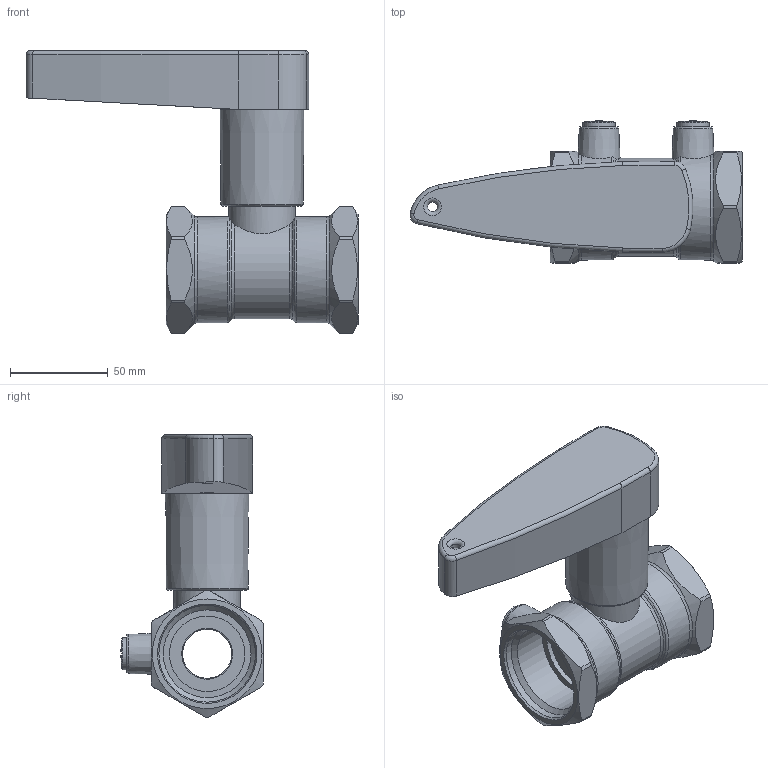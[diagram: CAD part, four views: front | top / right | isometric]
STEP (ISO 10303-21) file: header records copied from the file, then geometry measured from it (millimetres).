
FILE_DESCRIPTION(/* description */ (''),/* implementation_level */ '2;1');
FILE_NAME(/* name */ '\\dataserver\data\Nexus Valves\Inventor\2021_NexusValves Cad\3_Relax\nexus_relax_dn40.stp',/* time_stamp */ '2021-09-03T11:08:45+02:00',/* author */ ('kasius'),/* organization */ (''),/* preprocessor_version */ 'ST-DEVELOPER v17',/* originating_system */ 'Autodesk Inventor 2018',/* authorisation */ '');
FILE_SCHEMA (('AUTOMOTIVE_DESIGN { 1 0 10303 214 3 1 1 }'));
Length unit declared in the file: millimetre
Products named in the file (1): nexus_vertex_dn40
Bounding box: 169.5 x 72.5 x 144.29 mm (x, y, z)
Volume: 354342.9 mm3; surface area: 62295.4 mm2
Topology: 3 solids, 3 shells, 133 faces, 382 edges, 263 vertices
Faces by surface type: cylinder 41, plane 37, cone 26, torus 23, bspline 6
Full cylindrical faces by diameter (mm): 5 x1, 16.5 x2, 25 x1, 26 x4, 34 x1, 38.536 x1, 40.8 x1, 44.8 x2, 49.35 x2
Entity records: 5020 total; most frequent: CARTESIAN_POINT 1453, ORIENTED_EDGE 764, DIRECTION 756, EDGE_CURVE 382, AXIS2_PLACEMENT_3D 340, VERTEX_POINT 263, CIRCLE 203, EDGE_LOOP 145
